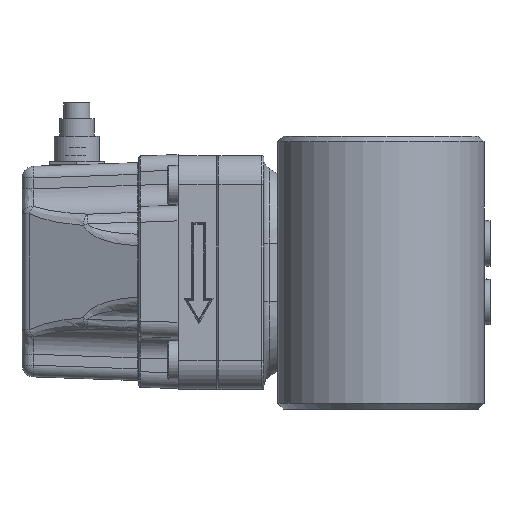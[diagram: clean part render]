
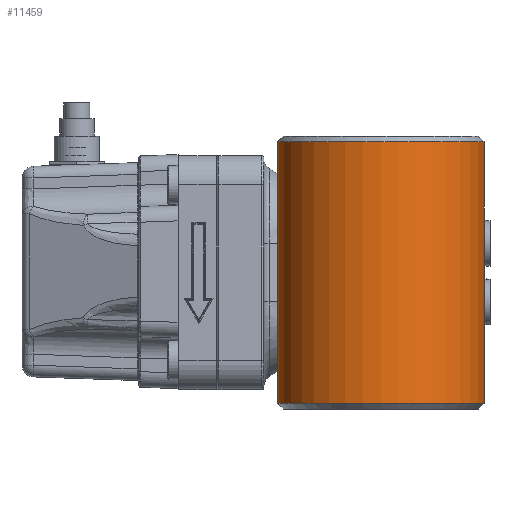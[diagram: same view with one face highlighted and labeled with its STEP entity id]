
A CAD part, left-side view. The second image highlights one B-rep face of the part: STEP entity #11459.
In plain terms, the highlighted cylindrical face has radius 26.5 mm (diameter 53 mm), a partial arc.
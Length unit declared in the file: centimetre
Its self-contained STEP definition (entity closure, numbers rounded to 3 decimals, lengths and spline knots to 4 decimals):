
#2185=VECTOR('',#15602,1.);
#2187=VECTOR('',#15604,1.);
#2719=LINE('',#45047,#2185);
#2721=LINE('',#45059,#2187);
#3810=VERTEX_POINT('',#45034);
#3811=VERTEX_POINT('',#45036);
#3815=VERTEX_POINT('',#45048);
#3818=VERTEX_POINT('',#45058);
#4473=CIRCLE('',#12729,2.65);
#4477=CIRCLE('',#12735,2.65);
#5957=EDGE_CURVE('',#3810,#3811,#4473,.T.);
#5962=EDGE_CURVE('',#3811,#3815,#2719,.T.);
#5966=EDGE_CURVE('',#3810,#3818,#2721,.T.);
#5968=EDGE_CURVE('',#3815,#3818,#4477,.T.);
#8934=ORIENTED_EDGE('',*,*,#5957,.F.);
#8935=ORIENTED_EDGE('',*,*,#5966,.T.);
#8936=ORIENTED_EDGE('',*,*,#5968,.F.);
#8937=ORIENTED_EDGE('',*,*,#5962,.F.);
#9834=EDGE_LOOP('',(#8934,#8935,#8936,#8937));
#10726=FACE_BOUND('',#9834,.T.);
#11459=ADVANCED_FACE('',(#10726),#45339,.T.);
#12729=AXIS2_PLACEMENT_3D('',#45035,#15593,#15594);
#12734=AXIS2_PLACEMENT_3D('',#45061,#15606,#15607);
#12735=AXIS2_PLACEMENT_3D('',#45062,#15608,#15609);
#15593=DIRECTION('',(0.,0.,1.));
#15594=DIRECTION('',(-2.65,0.,0.));
#15602=DIRECTION('',(0.,0.,-1.));
#15604=DIRECTION('',(0.,0.,-1.));
#15606=DIRECTION('',(0.,0.,-1.));
#15607=DIRECTION('',(-2.65,0.,0.));
#15608=DIRECTION('',(0.,0.,-1.));
#15609=DIRECTION('',(-2.65,0.,0.));
#45034=CARTESIAN_POINT('',(-5.519,-5.4531,5.5968));
#45035=CARTESIAN_POINT('',(-7.819,-6.7693,5.5968));
#45036=CARTESIAN_POINT('',(-5.519,-8.0856,5.5968));
#45047=CARTESIAN_POINT('',(-5.519,-8.0856,5.7468));
#45048=CARTESIAN_POINT('',(-5.519,-8.0856,-1.1032));
#45058=CARTESIAN_POINT('',(-5.519,-5.4531,-1.1032));
#45059=CARTESIAN_POINT('',(-5.519,-5.4531,5.7468));
#45061=CARTESIAN_POINT('',(-7.819,-6.7693,5.7468));
#45062=CARTESIAN_POINT('',(-7.819,-6.7693,-1.1032));
#45339=CYLINDRICAL_SURFACE('',#12734,2.65);
